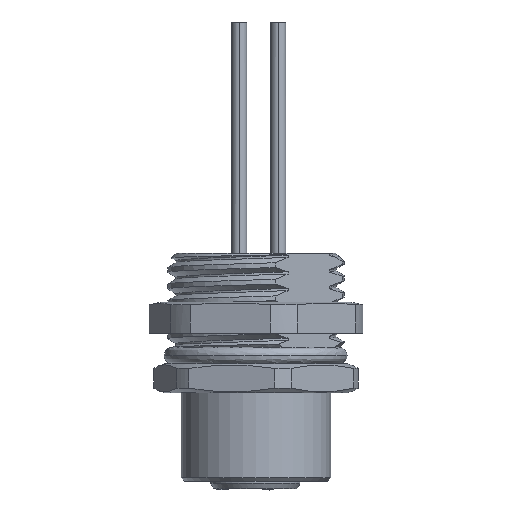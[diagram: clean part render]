
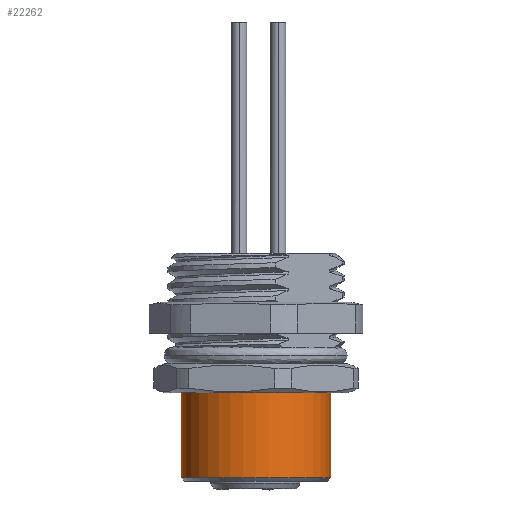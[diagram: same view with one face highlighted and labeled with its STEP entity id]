
A CAD part, front view. The second image highlights one B-rep face of the part: STEP entity #22262.
In plain terms, the highlighted cylindrical face has radius 6.75 mm (diameter 13.5 mm), a partial arc.
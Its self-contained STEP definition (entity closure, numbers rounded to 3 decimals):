
#108 = DIRECTION ( 'NONE',  ( -1., 0., 0. ) ) ;
#2709 = VERTEX_POINT ( 'NONE', #36391 ) ;
#2840 = CARTESIAN_POINT ( 'NONE',  ( 0., 0., 0. ) ) ;
#4056 = CIRCLE ( 'NONE', #11737, 6.75 ) ;
#4372 = CARTESIAN_POINT ( 'NONE',  ( 0., 0., 0. ) ) ;
#6899 = VERTEX_POINT ( 'NONE', #37755 ) ;
#7281 = DIRECTION ( 'NONE',  ( 0., 0., -1. ) ) ;
#10919 = CARTESIAN_POINT ( 'NONE',  ( 6.75, 0., 0. ) ) ;
#11737 = AXIS2_PLACEMENT_3D ( 'NONE', #28303, #19566, #12036 ) ;
#12036 = DIRECTION ( 'NONE',  ( -1., 0., 0. ) ) ;
#13451 = AXIS2_PLACEMENT_3D ( 'NONE', #4372, #41006, #108 ) ;
#14585 = EDGE_CURVE ( 'NONE', #2709, #39695, #32608, .T. ) ;
#16848 = ORIENTED_EDGE ( 'NONE', *, *, #48475, .F. ) ;
#19566 = DIRECTION ( 'NONE',  ( 0., 0., 1. ) ) ;
#20304 = FACE_OUTER_BOUND ( 'NONE', #33662, .T. ) ;
#20770 = CARTESIAN_POINT ( 'NONE',  ( -6.75, 0., 0. ) ) ;
#22262 = ADVANCED_FACE ( 'NONE', ( #20304 ), #42059, .T. ) ;
#22713 = DIRECTION ( 'NONE',  ( 0., 0., -1. ) ) ;
#23748 = VECTOR ( 'NONE', #24696, 1000. ) ;
#24696 = DIRECTION ( 'NONE',  ( 0., 0., -1. ) ) ;
#25765 = ORIENTED_EDGE ( 'NONE', *, *, #14585, .T. ) ;
#28237 = AXIS2_PLACEMENT_3D ( 'NONE', #2840, #7281, #49010 ) ;
#28303 = CARTESIAN_POINT ( 'NONE',  ( 0., 0., -7.7 ) ) ;
#32608 = CIRCLE ( 'NONE', #13451, 6.75 ) ;
#33528 = CARTESIAN_POINT ( 'NONE',  ( -6.75, 0., 0. ) ) ;
#33662 = EDGE_LOOP ( 'NONE', ( #16848, #25765, #52304, #40739 ) ) ;
#35703 = VERTEX_POINT ( 'NONE', #36409 ) ;
#36391 = CARTESIAN_POINT ( 'NONE',  ( 6.75, 0., 0. ) ) ;
#36409 = CARTESIAN_POINT ( 'NONE',  ( -6.75, 0., -7.7 ) ) ;
#37755 = CARTESIAN_POINT ( 'NONE',  ( 6.75, 0., -7.7 ) ) ;
#39695 = VERTEX_POINT ( 'NONE', #33528 ) ;
#40739 = ORIENTED_EDGE ( 'NONE', *, *, #43941, .T. ) ;
#41006 = DIRECTION ( 'NONE',  ( 0., 0., -1. ) ) ;
#42059 = CYLINDRICAL_SURFACE ( 'NONE', #28237, 6.75 ) ;
#43941 = EDGE_CURVE ( 'NONE', #35703, #6899, #4056, .T. ) ;
#44906 = LINE ( 'NONE', #10919, #50637 ) ;
#48475 = EDGE_CURVE ( 'NONE', #2709, #6899, #44906, .T. ) ;
#49010 = DIRECTION ( 'NONE',  ( -1., 0., 0. ) ) ;
#49919 = LINE ( 'NONE', #20770, #23748 ) ;
#50637 = VECTOR ( 'NONE', #22713, 1000. ) ;
#52304 = ORIENTED_EDGE ( 'NONE', *, *, #52889, .T. ) ;
#52889 = EDGE_CURVE ( 'NONE', #39695, #35703, #49919, .T. ) ;
